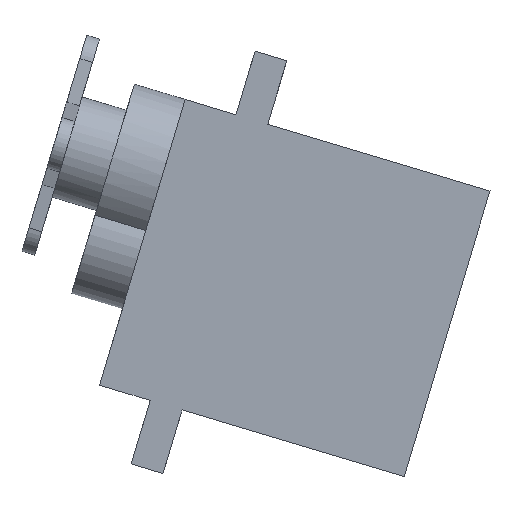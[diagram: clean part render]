
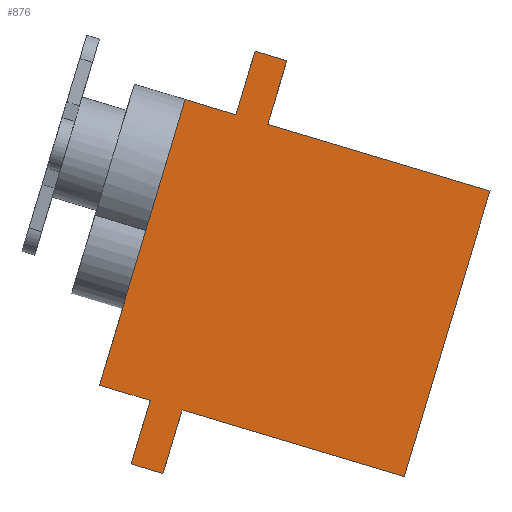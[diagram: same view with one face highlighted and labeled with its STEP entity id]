
A CAD part, front view. The second image highlights one B-rep face of the part: STEP entity #876.
In plain terms, the highlighted planar face has unit normal (0, -1, 0).
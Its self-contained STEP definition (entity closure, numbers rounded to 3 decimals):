
#110=FACE_OUTER_BOUND('',#162,.T.);
#162=EDGE_LOOP('',(#661,#662,#663,#664,#665,#666,#667,#668,#669,#670,#671,
#672,#673));
#210=LINE('',#1273,#293);
#212=LINE('',#1279,#295);
#215=LINE('',#1284,#298);
#217=LINE('',#1288,#300);
#222=LINE('',#1299,#305);
#233=LINE('',#1323,#316);
#235=LINE('',#1330,#318);
#239=LINE('',#1339,#322);
#240=LINE('',#1341,#323);
#242=LINE('',#1348,#325);
#244=LINE('',#1359,#327);
#246=LINE('',#1362,#329);
#247=LINE('',#1364,#330);
#293=VECTOR('',#1006,10.);
#295=VECTOR('',#1010,10.);
#298=VECTOR('',#1015,10.);
#300=VECTOR('',#1019,10.);
#305=VECTOR('',#1028,10.);
#316=VECTOR('',#1045,10.);
#318=VECTOR('',#1051,10.);
#322=VECTOR('',#1063,10.);
#323=VECTOR('',#1066,10.);
#325=VECTOR('',#1072,10.);
#327=VECTOR('',#1086,10.);
#329=VECTOR('',#1090,10.);
#330=VECTOR('',#1093,10.);
#374=VERTEX_POINT('',#1267);
#376=VERTEX_POINT('',#1271);
#377=VERTEX_POINT('',#1275);
#379=VERTEX_POINT('',#1278);
#381=VERTEX_POINT('',#1287);
#385=VERTEX_POINT('',#1297);
#394=VERTEX_POINT('',#1319);
#395=VERTEX_POINT('',#1321);
#397=VERTEX_POINT('',#1327);
#398=VERTEX_POINT('',#1329);
#401=VERTEX_POINT('',#1345);
#402=VERTEX_POINT('',#1347);
#405=VERTEX_POINT('',#1358);
#457=EDGE_CURVE('',#374,#376,#210,.T.);
#459=EDGE_CURVE('',#377,#379,#212,.T.);
#462=EDGE_CURVE('',#379,#376,#215,.T.);
#464=EDGE_CURVE('',#374,#381,#217,.T.);
#470=EDGE_CURVE('',#385,#377,#222,.T.);
#482=EDGE_CURVE('',#394,#395,#233,.T.);
#485=EDGE_CURVE('',#398,#397,#235,.T.);
#490=EDGE_CURVE('',#398,#385,#239,.T.);
#491=EDGE_CURVE('',#395,#381,#240,.T.);
#494=EDGE_CURVE('',#401,#402,#242,.T.);
#500=EDGE_CURVE('',#402,#405,#244,.T.);
#502=EDGE_CURVE('',#405,#397,#246,.T.);
#503=EDGE_CURVE('',#401,#394,#247,.T.);
#661=ORIENTED_EDGE('',*,*,#470,.F.);
#662=ORIENTED_EDGE('',*,*,#490,.F.);
#663=ORIENTED_EDGE('',*,*,#485,.T.);
#664=ORIENTED_EDGE('',*,*,#502,.F.);
#665=ORIENTED_EDGE('',*,*,#500,.F.);
#666=ORIENTED_EDGE('',*,*,#494,.F.);
#667=ORIENTED_EDGE('',*,*,#503,.T.);
#668=ORIENTED_EDGE('',*,*,#482,.T.);
#669=ORIENTED_EDGE('',*,*,#491,.T.);
#670=ORIENTED_EDGE('',*,*,#464,.F.);
#671=ORIENTED_EDGE('',*,*,#457,.T.);
#672=ORIENTED_EDGE('',*,*,#462,.F.);
#673=ORIENTED_EDGE('',*,*,#459,.F.);
#844=PLANE('',#935);
#876=ADVANCED_FACE('',(#110),#844,.T.);
#935=AXIS2_PLACEMENT_3D('',#1365,#1094,#1095);
#1006=DIRECTION('',(0.958,0.,-0.287));
#1010=DIRECTION('',(0.958,0.,-0.287));
#1015=DIRECTION('',(-0.287,0.,-0.958));
#1019=DIRECTION('',(-0.287,0.,-0.958));
#1028=DIRECTION('',(-0.287,0.,-0.958));
#1045=DIRECTION('',(-0.287,0.,-0.958));
#1051=DIRECTION('',(-0.287,0.,-0.958));
#1063=DIRECTION('',(0.958,0.,-0.287));
#1066=DIRECTION('',(0.958,0.,-0.287));
#1072=DIRECTION('',(0.287,0.,0.958));
#1086=DIRECTION('',(0.287,0.,0.958));
#1090=DIRECTION('',(0.958,0.,-0.287));
#1093=DIRECTION('',(0.958,0.,-0.287));
#1094=DIRECTION('center_axis',(0.,-1.,0.));
#1095=DIRECTION('ref_axis',(-0.287,0.,-0.958));
#1267=CARTESIAN_POINT('',(-34.527,-6.,37.132));
#1271=CARTESIAN_POINT('',(-17.765,-6.,32.103));
#1273=CARTESIAN_POINT('',(-36.922,-6.,37.85));
#1275=CARTESIAN_POINT('',(-28.062,-6.,58.683));
#1278=CARTESIAN_POINT('',(-11.3,-6.,53.654));
#1279=CARTESIAN_POINT('',(-30.457,-6.,59.401));
#1284=CARTESIAN_POINT('',(-11.3,-6.,53.654));
#1287=CARTESIAN_POINT('',(-35.964,-6.,32.343));
#1288=CARTESIAN_POINT('',(-28.062,-6.,58.683));
#1297=CARTESIAN_POINT('',(-26.625,-6.,63.472));
#1299=CARTESIAN_POINT('',(-28.062,-6.,58.683));
#1319=CARTESIAN_POINT('',(-36.922,-6.,37.85));
#1321=CARTESIAN_POINT('',(-38.359,-6.,33.061));
#1323=CARTESIAN_POINT('',(-30.457,-6.,59.401));
#1327=CARTESIAN_POINT('',(-30.457,-6.,59.401));
#1329=CARTESIAN_POINT('',(-29.02,-6.,64.19));
#1330=CARTESIAN_POINT('',(-30.457,-6.,59.401));
#1339=CARTESIAN_POINT('',(-29.02,-6.,64.19));
#1341=CARTESIAN_POINT('',(-38.359,-6.,33.061));
#1345=CARTESIAN_POINT('',(-40.753,-6.,38.999));
#1347=CARTESIAN_POINT('',(-36.012,-6.,54.804));
#1348=CARTESIAN_POINT('',(-40.753,-6.,38.999));
#1358=CARTESIAN_POINT('',(-34.288,-6.,60.551));
#1359=CARTESIAN_POINT('',(-40.753,-6.,38.999));
#1362=CARTESIAN_POINT('',(-34.288,-6.,60.551));
#1364=CARTESIAN_POINT('',(-40.753,-6.,38.999));
#1365=CARTESIAN_POINT('Origin',(-34.288,-6.,60.551));
